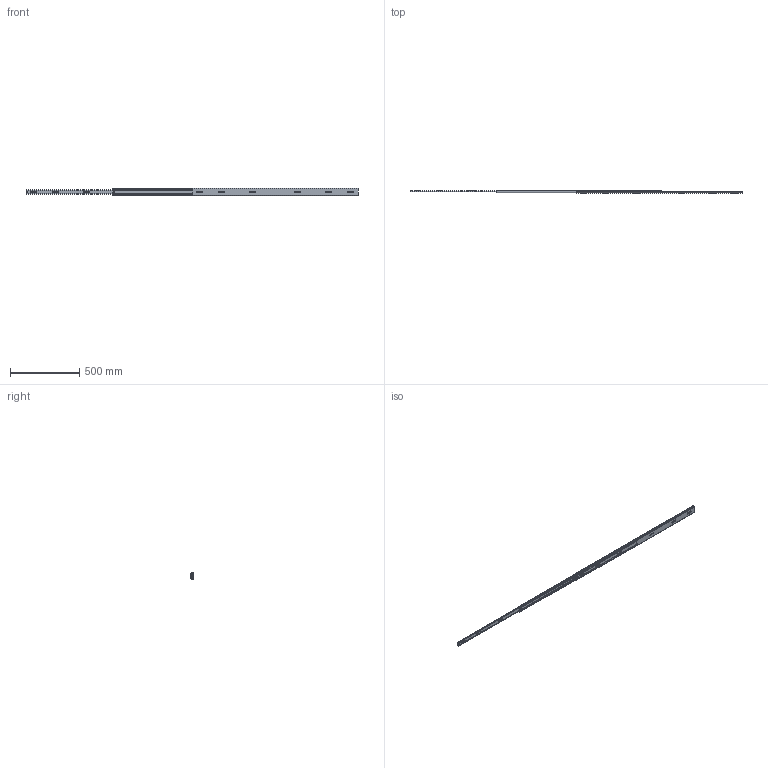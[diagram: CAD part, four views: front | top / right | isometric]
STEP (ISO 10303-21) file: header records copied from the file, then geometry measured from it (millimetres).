
FILE_DESCRIPTION((''),'2;1');
FILE_NAME('KP-57-C-48_ASM','2019-04-23T',('jishu015'),(''),'PRO/ENGINEER BY PARAMETRIC TECHNOLOGY CORPORATION, 2010280','PRO/ENGINEER BY PARAMETRIC TECHNOLOGY CORPORATION, 2010280','');
FILE_SCHEMA(('CONFIG_CONTROL_DESIGN'));
Products named in the file (15): KP-57-01WEIKE-36__; WAIKE_________________ASM; KP-57-01ZHONGGUI-40_____; KP-57-01ZHONGGUI-40______ASM; 1057XIAOZHUJIA1; 1057-5-6GANZHU1; 1057ZHUJIADANWEIJIAO1; 1057XIAOZHUJIA-28GE______ASM; KP-57-01NEIGUI-40___; KP-57-01NEIGUI-40____ASM; 1057DAZHUJIA-14GE___; 1057ZHUJIADANWEIJIAO___; 1057-5-6GANZHU___; 1057DAZHUJIA-14GE11_ASM; KP-57-C-48_ASM
Assembly tree (198 placements, depth 3):
  KP-57-C-48_ASM
    WAIKE_________________ASM
      KP-57-01WEIKE-36__
    KP-57-01ZHONGGUI-40______ASM
      KP-57-01ZHONGGUI-40_____
    1057XIAOZHUJIA-28GE______ASM
      1057XIAOZHUJIA1
      1057-5-6GANZHU1  x88
      1057ZHUJIADANWEIJIAO1  x2
    KP-57-01NEIGUI-40____ASM
      KP-57-01NEIGUI-40___
    1057DAZHUJIA-14GE11_ASM
      1057DAZHUJIA-14GE___
      1057ZHUJIADANWEIJIAO___  x2
      1057-5-6GANZHU___  x96
Bounding box: 2400 x 19 x 57.7 mm (x, y, z)
Volume: 532598.3 mm3; surface area: 632128.8 mm2
Topology: 193 solids, 196 shells, 4600 faces, 12966 edges, 8012 vertices
Faces by surface type: plane 2152, cylinder 1892, sphere 368, cone 104, bspline 84
Entity records: 140696 total; most frequent: CARTESIAN_POINT 28037, DIRECTION 23992, ORIENTED_EDGE 23324, EDGE_CURVE 11698, AXIS2_PLACEMENT_3D 8215, VECTOR 7562, LINE 7562, VERTEX_POINT 7536
